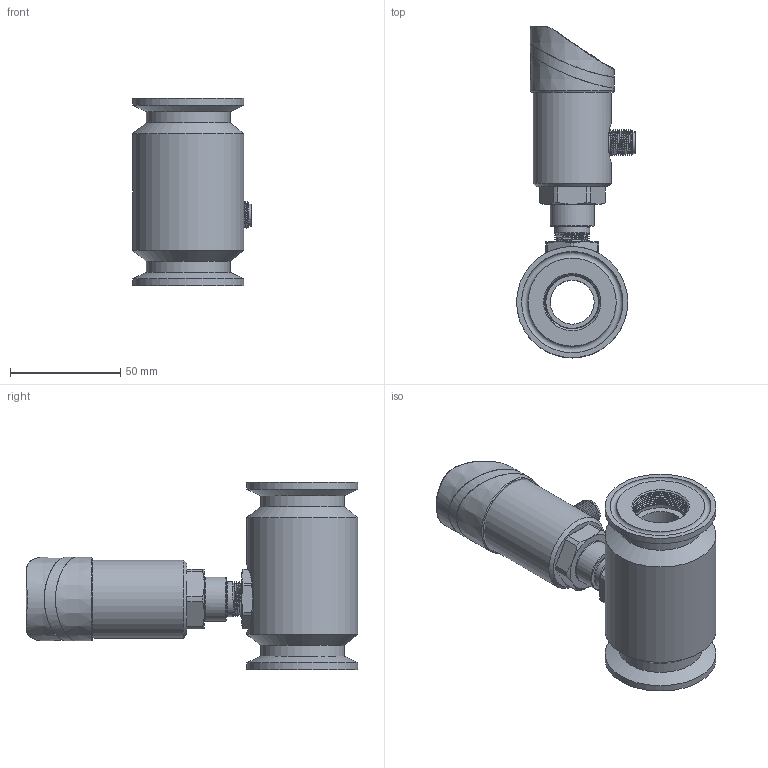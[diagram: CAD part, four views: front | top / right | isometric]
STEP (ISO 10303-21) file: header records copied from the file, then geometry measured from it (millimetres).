
FILE_DESCRIPTION( (''), '2;1');
FILE_NAME( 'QTKE_DN20_tri-clamp.step', '2024-10-15T08:27:44+08:00', (''), (''), '', '', '');
FILE_SCHEMA (('AUTOMOTIVE_DESIGN { 1 0 10303 214 3 1 1 1 }'));
Length unit declared in the file: millimetre
Products named in the file (1): QTKE DN20_tri-clamp
Bounding box: 53.97 x 150.75 x 85 mm (x, y, z)
Volume: 185186.8 mm3; surface area: 52365.3 mm2
Topology: 5 solids, 6 shells, 736 faces, 1901 edges, 1242 vertices
Faces by surface type: plane 271, extrusion 141, cylinder 137, cone 76, bspline 66, torus 34, sphere 11
Full cylindrical faces by diameter (mm): 1.689 x1, 2.7 x3, 12 x1, 15.9 x1, 16.5 x1, 17 x1, 20 x2, 23 x3, 26 x7, 35.5 x1, 37.001 x1, 38 x2, 50.5 x3
Entity records: 40741 total; most frequent: CARTESIAN_POINT 22623, ORIENTED_EDGE 3588, DIRECTION 2841, EDGE_CURVE 1794, VERTEX_POINT 1202, VECTOR 953, AXIS2_PLACEMENT_3D 944, EDGE_LOOP 874
